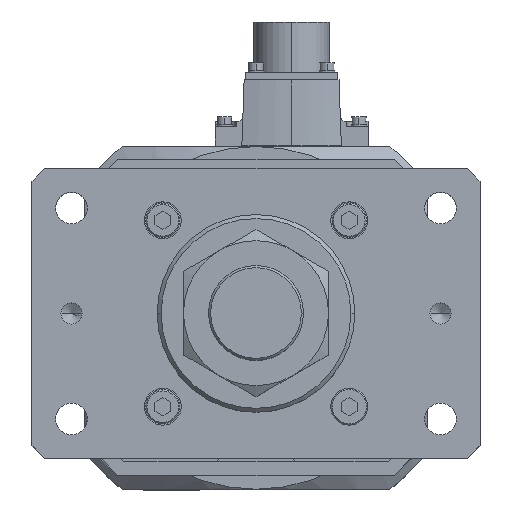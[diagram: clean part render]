
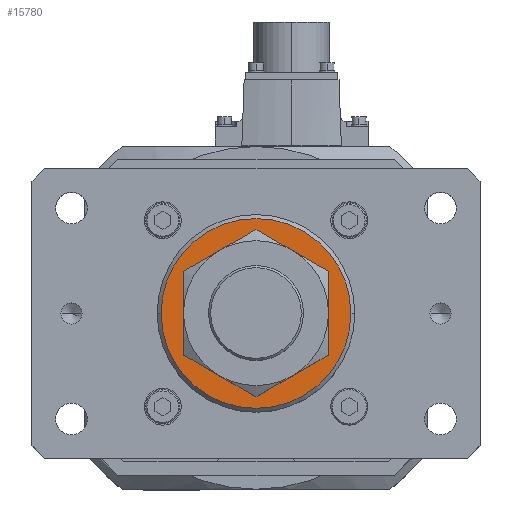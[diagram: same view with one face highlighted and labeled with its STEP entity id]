
A CAD part, top view. The second image highlights one B-rep face of the part: STEP entity #15780.
In plain terms, the highlighted planar face has unit normal (0, 0, 1).
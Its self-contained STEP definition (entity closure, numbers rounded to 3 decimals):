
#1348 = AXIS2_PLACEMENT_3D ( 'NONE', #23950, #9504, #29475 ) ;
#2045 = EDGE_CURVE ( 'NONE', #18563, #2256, #28051, .T. ) ;
#2256 = VERTEX_POINT ( 'NONE', #5314 ) ;
#3840 = EDGE_CURVE ( 'NONE', #2256, #18563, #33265, .T. ) ;
#4232 = VERTEX_POINT ( 'NONE', #19553 ) ;
#5041 = DIRECTION ( 'NONE',  ( 1., 0., 0. ) ) ;
#5067 = AXIS2_PLACEMENT_3D ( 'NONE', #6592, #17814, #29200 ) ;
#5111 = DIRECTION ( 'NONE',  ( 1., 0., 0. ) ) ;
#5314 = CARTESIAN_POINT ( 'NONE',  ( 36., 0., 696. ) ) ;
#6592 = CARTESIAN_POINT ( 'NONE',  ( 0., 0., 696. ) ) ;
#7671 = EDGE_CURVE ( 'NONE', #20060, #4232, #34542, .T. ) ;
#7818 = CARTESIAN_POINT ( 'NONE',  ( 0., 0., 696. ) ) ;
#8669 = AXIS2_PLACEMENT_3D ( 'NONE', #36356, #22152, #5041 ) ;
#9504 = DIRECTION ( 'NONE',  ( 0., 0., -1. ) ) ;
#10563 = ORIENTED_EDGE ( 'NONE', *, *, #3840, .T. ) ;
#10578 = DIRECTION ( 'NONE',  ( 1., 0., 0. ) ) ;
#12018 = FACE_OUTER_BOUND ( 'NONE', #17980, .T. ) ;
#13131 = ORIENTED_EDGE ( 'NONE', *, *, #7671, .T. ) ;
#13648 = EDGE_LOOP ( 'NONE', ( #13714, #13131 ) ) ;
#13714 = ORIENTED_EDGE ( 'NONE', *, *, #16249, .T. ) ;
#15780 = ADVANCED_FACE ( 'NONE', ( #19092, #12018 ), #19202, .T. ) ;
#16249 = EDGE_CURVE ( 'NONE', #4232, #20060, #34686, .T. ) ;
#16575 = DIRECTION ( 'NONE',  ( 0., 0., 1. ) ) ;
#17814 = DIRECTION ( 'NONE',  ( 0., 0., 1. ) ) ;
#17980 = EDGE_LOOP ( 'NONE', ( #29842, #10563 ) ) ;
#18563 = VERTEX_POINT ( 'NONE', #20254 ) ;
#18595 = CARTESIAN_POINT ( 'NONE',  ( -23., 0., 696. ) ) ;
#18784 = DIRECTION ( 'NONE',  ( 0., 0., -1. ) ) ;
#19092 = FACE_BOUND ( 'NONE', #13648, .T. ) ;
#19202 = PLANE ( 'NONE',  #25519 ) ;
#19553 = CARTESIAN_POINT ( 'NONE',  ( 23., 0., 696. ) ) ;
#20060 = VERTEX_POINT ( 'NONE', #18595 ) ;
#20254 = CARTESIAN_POINT ( 'NONE',  ( -36., 0., 696. ) ) ;
#22152 = DIRECTION ( 'NONE',  ( 0., 0., 1. ) ) ;
#22213 = CARTESIAN_POINT ( 'NONE',  ( 0., 0., 696. ) ) ;
#23950 = CARTESIAN_POINT ( 'NONE',  ( 0., 0., 696. ) ) ;
#25519 = AXIS2_PLACEMENT_3D ( 'NONE', #22213, #16575, #5111 ) ;
#28051 = CIRCLE ( 'NONE', #8669, 36. ) ;
#29200 = DIRECTION ( 'NONE',  ( 1., 0., 0. ) ) ;
#29475 = DIRECTION ( 'NONE',  ( 1., 0., 0. ) ) ;
#29842 = ORIENTED_EDGE ( 'NONE', *, *, #2045, .T. ) ;
#33265 = CIRCLE ( 'NONE', #5067, 36. ) ;
#33884 = AXIS2_PLACEMENT_3D ( 'NONE', #7818, #18784, #10578 ) ;
#34542 = CIRCLE ( 'NONE', #1348, 23. ) ;
#34686 = CIRCLE ( 'NONE', #33884, 23. ) ;
#36356 = CARTESIAN_POINT ( 'NONE',  ( 0., 0., 696. ) ) ;
